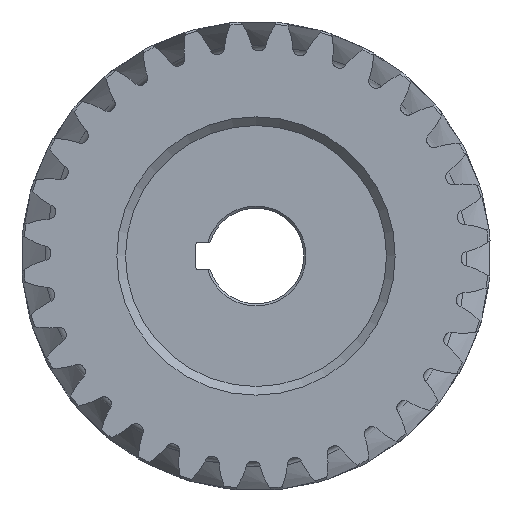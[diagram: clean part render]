
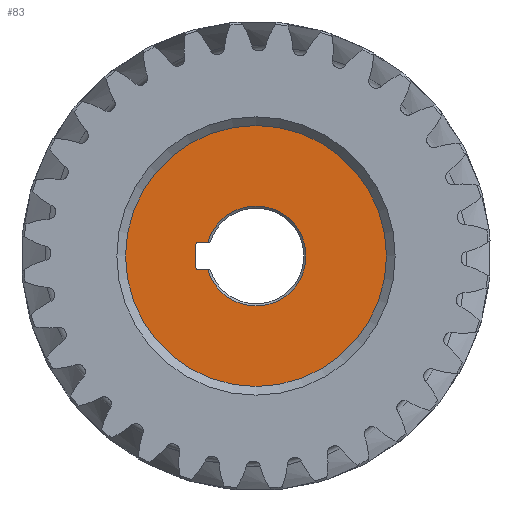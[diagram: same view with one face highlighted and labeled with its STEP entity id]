
A CAD part, left-side view. The second image highlights one B-rep face of the part: STEP entity #83.
In plain terms, the highlighted planar face has unit normal (-1, 0, 0).
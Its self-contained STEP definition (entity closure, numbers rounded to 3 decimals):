
#83=ADVANCED_FACE('',(#2546,#2548),#2550,.T.);
#2546=FACE_BOUND('',#2547,.T.);
#2547=EDGE_LOOP('',(#9077));
#2548=FACE_BOUND('',#2549,.T.);
#2549=EDGE_LOOP('',(#9078,#9079,#9080,#9081,#9082,#9083));
#2550=PLANE('',#2551);
#2551=AXIS2_PLACEMENT_3D('',#2552,#2553,#2554);
#2552=CARTESIAN_POINT('',(8.,0.,0.));
#2553=DIRECTION('',(-1.,-0.,-0.));
#2554=DIRECTION('',(0.,0.,-1.));
#9077=ORIENTED_EDGE('',*,*,#10672,.T.);
#9078=ORIENTED_EDGE('',*,*,#10673,.T.);
#9079=ORIENTED_EDGE('',*,*,#10665,.F.);
#9080=ORIENTED_EDGE('',*,*,#10674,.T.);
#9081=ORIENTED_EDGE('',*,*,#10675,.T.);
#9082=ORIENTED_EDGE('',*,*,#10676,.T.);
#9083=ORIENTED_EDGE('',*,*,#10677,.T.);
#10665=EDGE_CURVE('',#11469,#11464,#11471,.F.);
#10672=EDGE_CURVE('',#11483,#11483,#11484,.T.);
#10673=EDGE_CURVE('',#11485,#11464,#11486,.F.);
#10674=EDGE_CURVE('',#11469,#11487,#11488,.F.);
#10675=EDGE_CURVE('',#11487,#11489,#11490,.F.);
#10676=EDGE_CURVE('',#11489,#11491,#11492,.F.);
#10677=EDGE_CURVE('',#11491,#11485,#11493,.F.);
#11464=VERTEX_POINT('',#12812);
#11469=VERTEX_POINT('',#12825);
#11471=CIRCLE('',#12832,11.5);
#11483=VERTEX_POINT('',#12862);
#11484=CIRCLE('',#12863,30.);
#11485=VERTEX_POINT('',#12867);
#11486=LINE('',#12868,#12869);
#11487=VERTEX_POINT('',#12871);
#11488=LINE('',#12872,#12873);
#11489=VERTEX_POINT('',#12875);
#11490=CIRCLE('',#12876,0.25);
#11491=VERTEX_POINT('',#12880);
#11492=LINE('',#12881,#12882);
#11493=CIRCLE('',#12884,0.25);
#12812=CARTESIAN_POINT('',(8.,11.102,3.));
#12825=CARTESIAN_POINT('',(8.,11.102,-3.));
#12832=AXIS2_PLACEMENT_3D('',#12833,#12834,#12835);
#12833=CARTESIAN_POINT('',(8.,0.,0.));
#12834=DIRECTION('',(1.,0.,0.));
#12835=DIRECTION('',(0.,0.965,0.261));
#12862=CARTESIAN_POINT('',(8.,0.,-30.));
#12863=AXIS2_PLACEMENT_3D('',#12864,#12865,#12866);
#12864=CARTESIAN_POINT('',(8.,0.,0.));
#12865=DIRECTION('',(-1.,-0.,-0.));
#12866=DIRECTION('',(0.,0.,-1.));
#12867=CARTESIAN_POINT('',(8.,13.55,3.));
#12868=CARTESIAN_POINT('',(8.,11.102,3.));
#12869=VECTOR('',#12870,1.);
#12870=DIRECTION('',(0.,1.,0.));
#12871=CARTESIAN_POINT('',(8.,13.55,-3.));
#12872=CARTESIAN_POINT('',(8.,13.55,-3.));
#12873=VECTOR('',#12874,1.);
#12874=DIRECTION('',(0.,-1.,0.));
#12875=CARTESIAN_POINT('',(8.,13.8,-2.75));
#12876=AXIS2_PLACEMENT_3D('',#12877,#12878,#12879);
#12877=CARTESIAN_POINT('',(8.,13.55,-2.75));
#12878=DIRECTION('',(-1.,0.,0.));
#12879=DIRECTION('',(0.,1.,0.));
#12880=CARTESIAN_POINT('',(8.,13.8,2.75));
#12881=CARTESIAN_POINT('',(8.,13.8,2.75));
#12882=VECTOR('',#12883,1.);
#12883=DIRECTION('',(0.,0.,-1.));
#12884=AXIS2_PLACEMENT_3D('',#12885,#12886,#12887);
#12885=CARTESIAN_POINT('',(8.,13.55,2.75));
#12886=DIRECTION('',(-1.,0.,0.));
#12887=DIRECTION('',(0.,0.,1.));
